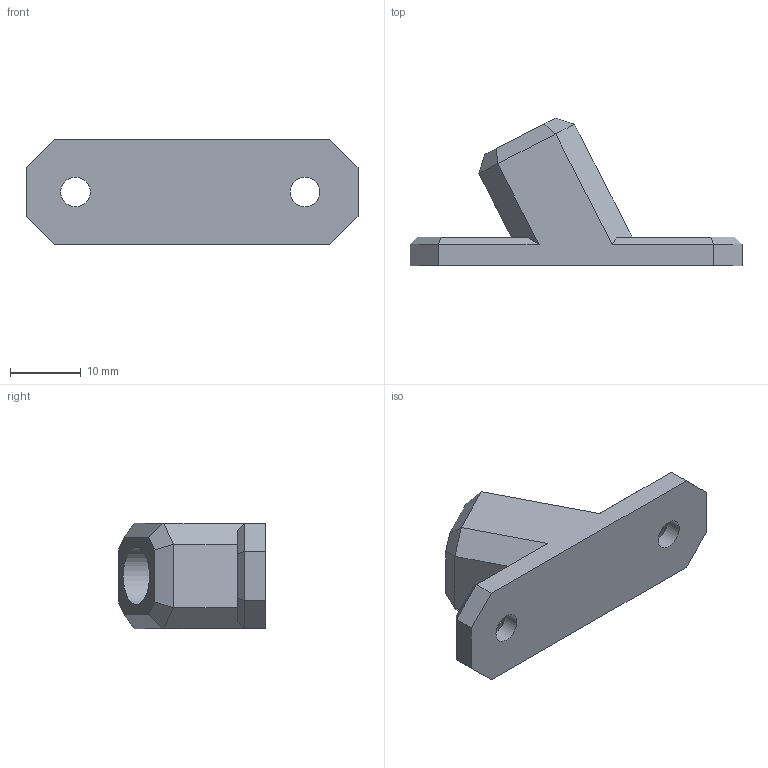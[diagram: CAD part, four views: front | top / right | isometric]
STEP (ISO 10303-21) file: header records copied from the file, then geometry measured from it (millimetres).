
FILE_DESCRIPTION(/* description */ (''),/* implementation_level */ '2;1');
FILE_NAME(/* name */ 'D:\3D печать\Мои проекты\Archy MK 2\STEP\крепление стойки под катушку переднее.stp',/* time_stamp */ '2019-03-20T22:11:21+06:00',/* author */ ('Пользователь'),/* organization */ (''),/* preprocessor_version */ 'ST-DEVELOPER v16.5',/* originating_system */ 'Autodesk Inventor 2017',/* authorisation */ '');
FILE_SCHEMA (('AUTOMOTIVE_DESIGN { 1 0 10303 214 3 1 1 }'));
Length unit declared in the file: millimetre
Products named in the file (1): крепление \X2\04410442043E0439043A
0438\X0\ под катушку \X2\043F
0435044004350434043D04350435\X0\
Bounding box: 47 x 20.87 x 15 mm (x, y, z)
Volume: 5050.4 mm3; surface area: 2908.5 mm2
Topology: 1 solids, 1 shells, 53 faces, 131 edges, 82 vertices
Faces by surface type: plane 48, cylinder 3, cone 2
Full cylindrical faces by diameter (mm): 4.2 x2, 8.1 x1
Entity records: 1514 total; most frequent: CARTESIAN_POINT 258, ORIENTED_EDGE 248, DIRECTION 240, EDGE_CURVE 124, LINE 116, VECTOR 116, VERTEX_POINT 80, EDGE_LOOP 64
